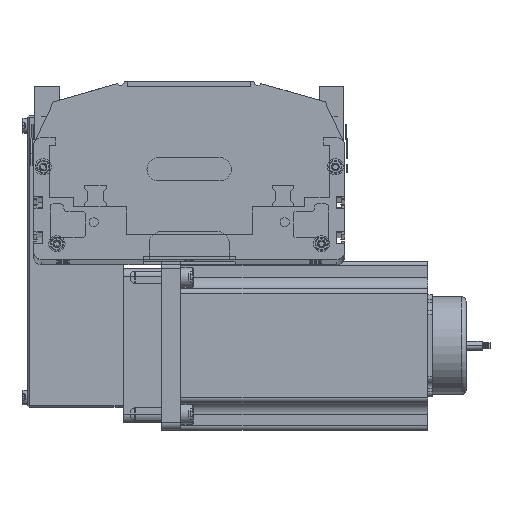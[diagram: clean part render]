
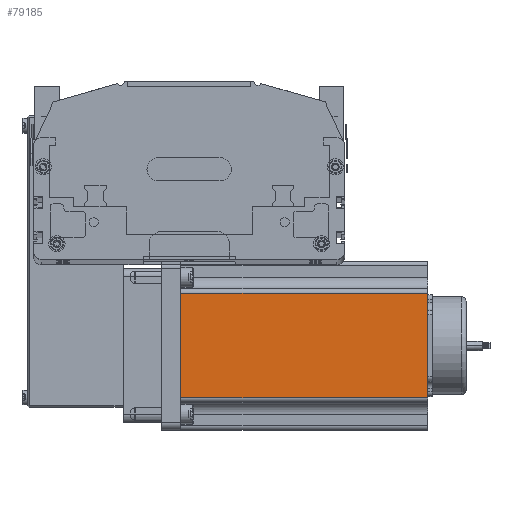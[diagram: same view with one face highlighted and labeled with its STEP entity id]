
A CAD part, top view. The second image highlights one B-rep face of the part: STEP entity #79185.
In plain terms, the highlighted planar face has unit normal (0, 0, 1) as drawn and (0, -1, 0) by its records, which use the part's own axes.
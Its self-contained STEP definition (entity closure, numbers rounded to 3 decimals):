
#37267 = PLANE ( 'NONE',  #37370 ) ;
#37287 = FACE_OUTER_BOUND ( 'NONE', #79176, .T. ) ;
#37358 = DIRECTION ( 'NONE',  ( 0., 0., 1. ) ) ;
#37370 = AXIS2_PLACEMENT_3D ( 'NONE', #37382, #37377, #37358 ) ;
#37377 = DIRECTION ( 'NONE',  ( 0., 1., 0. ) ) ;
#37382 = CARTESIAN_POINT ( 'NONE',  ( 0., 0., 160.5 ) ) ;
#37540 = CARTESIAN_POINT ( 'NONE',  ( 21.048, 0., 160.5 ) ) ;
#38154 = CARTESIAN_POINT ( 'NONE',  ( 21.048, 0., 0. ) ) ;
#38279 = CARTESIAN_POINT ( 'NONE',  ( 0., 0., 0. ) ) ;
#38282 = LINE ( 'NONE', #38279, #38399 ) ;
#38396 = DIRECTION ( 'NONE',  ( 1., 0., 0. ) ) ;
#38399 = VECTOR ( 'NONE', #38396, 1000. ) ;
#38422 = DIRECTION ( 'NONE',  ( 0., 0., -1. ) ) ;
#38423 = VECTOR ( 'NONE', #38422, 1000. ) ;
#38424 = CARTESIAN_POINT ( 'NONE',  ( 21.048, 0., 160.5 ) ) ;
#38428 = LINE ( 'NONE', #38424, #38423 ) ;
#38477 = DIRECTION ( 'NONE',  ( 0., 0., 1. ) ) ;
#38479 = VECTOR ( 'NONE', #38477, 1000. ) ;
#38482 = CARTESIAN_POINT ( 'NONE',  ( 88.952, 0., 160.5 ) ) ;
#38483 = LINE ( 'NONE', #38482, #38479 ) ;
#38576 = DIRECTION ( 'NONE',  ( 1., 0., 0. ) ) ;
#38578 = VECTOR ( 'NONE', #38576, 1000. ) ;
#38579 = CARTESIAN_POINT ( 'NONE',  ( 0., 0., 160.5 ) ) ;
#38587 = LINE ( 'NONE', #38579, #38578 ) ;
#38685 = CARTESIAN_POINT ( 'NONE',  ( 88.952, 0., 0. ) ) ;
#38695 = CARTESIAN_POINT ( 'NONE',  ( 88.952, 0., 160.5 ) ) ;
#79176 = EDGE_LOOP ( 'NONE', ( #79187, #79420, #79303, #79375 ) ) ;
#79185 = ADVANCED_FACE ( 'NONE', ( #37287 ), #37267, .F. ) ;
#79187 = ORIENTED_EDGE ( 'NONE', *, *, #79297, .T. ) ;
#79252 = VERTEX_POINT ( 'NONE', #37540 ) ;
#79258 = VERTEX_POINT ( 'NONE', #38154 ) ;
#79292 = EDGE_CURVE ( 'NONE', #79252, #79258, #38428, .T. ) ;
#79297 = EDGE_CURVE ( 'NONE', #79258, #79351, #38282, .T. ) ;
#79303 = ORIENTED_EDGE ( 'NONE', *, *, #79326, .F. ) ;
#79311 = EDGE_CURVE ( 'NONE', #79351, #79348, #38483, .T. ) ;
#79326 = EDGE_CURVE ( 'NONE', #79252, #79348, #38587, .T. ) ;
#79348 = VERTEX_POINT ( 'NONE', #38695 ) ;
#79351 = VERTEX_POINT ( 'NONE', #38685 ) ;
#79375 = ORIENTED_EDGE ( 'NONE', *, *, #79292, .T. ) ;
#79420 = ORIENTED_EDGE ( 'NONE', *, *, #79311, .T. ) ;
